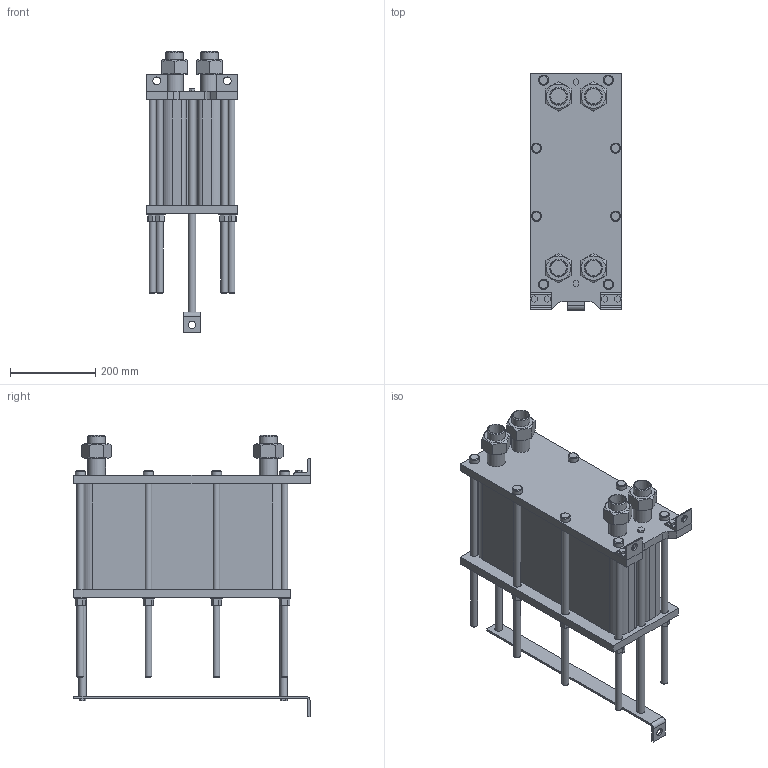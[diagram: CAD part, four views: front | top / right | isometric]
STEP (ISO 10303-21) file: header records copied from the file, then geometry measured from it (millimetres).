
FILE_DESCRIPTION(/* description */ (''),/* implementation_level */ '2;1');
FILE_NAME(/* name */ 'C:\Users\zhuro\Desktop\ENCO\TO\ЭН-004\ЭН-0,5-004-80-1.stp',/* time_stamp */ '2022-06-06T10:50:13+03:00',/* author */ ('zhuro'),/* organization */ (''),/* preprocessor_version */ 'ST-DEVELOPER v18.1',/* originating_system */ 'Autodesk Inventor 2022',/* authorisation */ '');
FILE_SCHEMA (('AUTOMOTIVE_DESIGN { 1 0 10303 214 3 1 1 }'));
Length unit declared in the file: millimetre
Products named in the file (1): ЭН-0,5-004-80-1
Bounding box: 216 x 555 x 661 mm (x, y, z)
Volume: 24283370.8 mm3; surface area: 1495773.5 mm2
Topology: 40 solids, 40 shells, 403 faces, 865 edges, 574 vertices
Faces by surface type: plane 272, cylinder 103, cone 28
Full cylindrical faces by diameter (mm): 10 x4, 16 x16, 18 x29, 20 x2, 24 x8, 28 x8, 36.3 x5, 42.3 x9
Entity records: 11137 total; most frequent: CARTESIAN_POINT 1939, DIRECTION 1879, ORIENTED_EDGE 1730, EDGE_CURVE 865, AXIS2_PLACEMENT_3D 658, VERTEX_POINT 574, LINE 563, VECTOR 563
